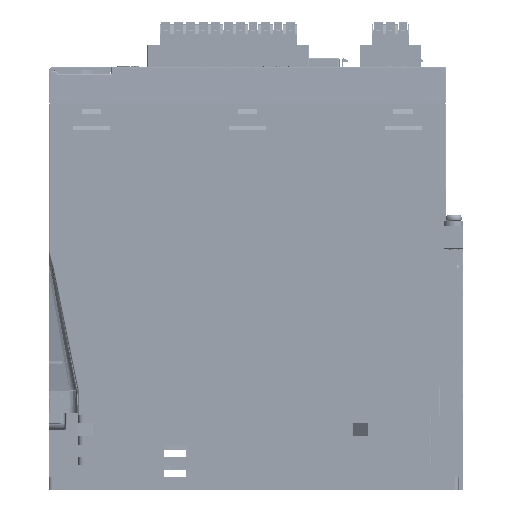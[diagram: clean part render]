
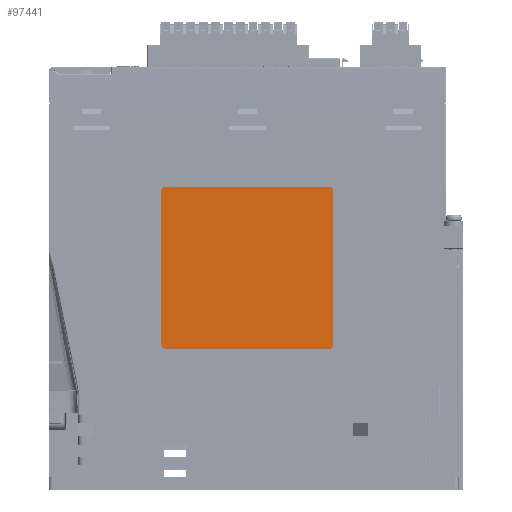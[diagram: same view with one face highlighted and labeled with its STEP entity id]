
A CAD part, left-side view. The second image highlights one B-rep face of the part: STEP entity #97441.
In plain terms, the highlighted planar face has unit normal (-1, 0, 0) as drawn and (0, 1, 0) by its records, which use the part's own axes.
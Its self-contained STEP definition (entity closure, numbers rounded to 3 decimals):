
#97126 = VERTEX_POINT ( 'NONE', #405755 ) ;
#97180 = VERTEX_POINT ( 'NONE', #405941 ) ;
#97192 = EDGE_CURVE ( 'NONE', #97126, #97180, #406135, .T. ) ;
#97226 = EDGE_CURVE ( 'NONE', #97334, #97469, #405987, .T. ) ;
#97230 = EDGE_CURVE ( 'NONE', #97405, #97392, #406186, .T. ) ;
#97293 = EDGE_CURVE ( 'NONE', #97392, #97334, #406505, .T. ) ;
#97306 = VERTEX_POINT ( 'NONE', #406507 ) ;
#97317 = VERTEX_POINT ( 'NONE', #406494 ) ;
#97325 = EDGE_CURVE ( 'NONE', #97306, #97317, #406492, .T. ) ;
#97334 = VERTEX_POINT ( 'NONE', #406550 ) ;
#97350 = ORIENTED_EDGE ( 'NONE', *, *, #97450, .T. ) ;
#97369 = ORIENTED_EDGE ( 'NONE', *, *, #97625, .T. ) ;
#97392 = VERTEX_POINT ( 'NONE', #405407 ) ;
#97405 = VERTEX_POINT ( 'NONE', #407120 ) ;
#97408 = EDGE_LOOP ( 'NONE', ( #97448, #97455, #97426, #97614, #97458, #97350, #97617, #97369 ) ) ;
#97419 = EDGE_CURVE ( 'NONE', #97469, #97306, #407075, .T. ) ;
#97426 = ORIENTED_EDGE ( 'NONE', *, *, #97226, .T. ) ;
#97441 = ADVANCED_FACE ( 'NONE', ( #407285 ), #407396, .T. ) ;
#97448 = ORIENTED_EDGE ( 'NONE', *, *, #97230, .T. ) ;
#97450 = EDGE_CURVE ( 'NONE', #97317, #97126, #407371, .T. ) ;
#97455 = ORIENTED_EDGE ( 'NONE', *, *, #97293, .T. ) ;
#97458 = ORIENTED_EDGE ( 'NONE', *, *, #97325, .T. ) ;
#97469 = VERTEX_POINT ( 'NONE', #407402 ) ;
#97614 = ORIENTED_EDGE ( 'NONE', *, *, #97419, .T. ) ;
#97617 = ORIENTED_EDGE ( 'NONE', *, *, #97192, .T. ) ;
#97625 = EDGE_CURVE ( 'NONE', #97180, #97405, #408210, .T. ) ;
#405407 = CARTESIAN_POINT ( 'NONE',  ( -30., 34.3, -36.4 ) ) ;
#405755 = CARTESIAN_POINT ( 'NONE',  ( 38.5, 34.3, 28.1 ) ) ;
#405941 = CARTESIAN_POINT ( 'NONE',  ( 38.5, 34.3, -34.9 ) ) ;
#405987 = LINE ( 'NONE', #406198, #406192 ) ;
#406129 = DIRECTION ( 'NONE',  ( 0., 0., -1. ) ) ;
#406132 = VECTOR ( 'NONE', #406129, 1000. ) ;
#406133 = CARTESIAN_POINT ( 'NONE',  ( 38.5, 34.3, -36.4 ) ) ;
#406135 = LINE ( 'NONE', #406133, #406132 ) ;
#406179 = DIRECTION ( 'NONE',  ( -1., 0., 0. ) ) ;
#406182 = VECTOR ( 'NONE', #406179, 1000. ) ;
#406185 = CARTESIAN_POINT ( 'NONE',  ( -31.5, 34.3, -36.4 ) ) ;
#406186 = LINE ( 'NONE', #406185, #406182 ) ;
#406189 = DIRECTION ( 'NONE',  ( 0., 0., 1. ) ) ;
#406192 = VECTOR ( 'NONE', #406189, 1000. ) ;
#406198 = CARTESIAN_POINT ( 'NONE',  ( -31.5, 34.3, -36.4 ) ) ;
#406489 = DIRECTION ( 'NONE',  ( 0., 0., 1. ) ) ;
#406490 = DIRECTION ( 'NONE',  ( 0., 1., 0. ) ) ;
#406492 = LINE ( 'NONE', #406547, #406791 ) ;
#406494 = CARTESIAN_POINT ( 'NONE',  ( 37., 34.3, 29.6 ) ) ;
#406505 = CIRCLE ( 'NONE', #406517, 1.5 ) ;
#406507 = CARTESIAN_POINT ( 'NONE',  ( -30., 34.3, 29.6 ) ) ;
#406517 = AXIS2_PLACEMENT_3D ( 'NONE', #406523, #406490, #406489 ) ;
#406523 = CARTESIAN_POINT ( 'NONE',  ( -30., 34.3, -34.9 ) ) ;
#406547 = CARTESIAN_POINT ( 'NONE',  ( -31.5, 34.3, 29.6 ) ) ;
#406550 = CARTESIAN_POINT ( 'NONE',  ( -31.5, 34.3, -34.9 ) ) ;
#406789 = DIRECTION ( 'NONE',  ( 1., 0., 0. ) ) ;
#406791 = VECTOR ( 'NONE', #406789, 1000. ) ;
#407075 = CIRCLE ( 'NONE', #407081, 1.5 ) ;
#407081 = AXIS2_PLACEMENT_3D ( 'NONE', #407122, #407087, #407310 ) ;
#407087 = DIRECTION ( 'NONE',  ( 0., 1., 0. ) ) ;
#407120 = CARTESIAN_POINT ( 'NONE',  ( 37., 34.3, -36.4 ) ) ;
#407122 = CARTESIAN_POINT ( 'NONE',  ( -30., 34.3, 28.1 ) ) ;
#407285 = FACE_OUTER_BOUND ( 'NONE', #97408, .T. ) ;
#407307 = AXIS2_PLACEMENT_3D ( 'NONE', #407362, #407359, #407358 ) ;
#407310 = DIRECTION ( 'NONE',  ( 0., 0., 1. ) ) ;
#407311 = CARTESIAN_POINT ( 'NONE',  ( 37., 34.3, 28.1 ) ) ;
#407349 = DIRECTION ( 'NONE',  ( 0., 1., 0. ) ) ;
#407351 = AXIS2_PLACEMENT_3D ( 'NONE', #407311, #407349, #407568 ) ;
#407358 = DIRECTION ( 'NONE',  ( 0., 0., 1. ) ) ;
#407359 = DIRECTION ( 'NONE',  ( 0., 1., 0. ) ) ;
#407362 = CARTESIAN_POINT ( 'NONE',  ( 38.5, 34.3, 29.6 ) ) ;
#407371 = CIRCLE ( 'NONE', #407351, 1.5 ) ;
#407396 = PLANE ( 'NONE',  #407307 ) ;
#407402 = CARTESIAN_POINT ( 'NONE',  ( -31.5, 34.3, 28.1 ) ) ;
#407568 = DIRECTION ( 'NONE',  ( 0., 0., 1. ) ) ;
#407979 = CARTESIAN_POINT ( 'NONE',  ( 37., 34.3, -34.9 ) ) ;
#408073 = AXIS2_PLACEMENT_3D ( 'NONE', #407979, #408198, #408255 ) ;
#408198 = DIRECTION ( 'NONE',  ( 0., 1., 0. ) ) ;
#408210 = CIRCLE ( 'NONE', #408073, 1.5 ) ;
#408255 = DIRECTION ( 'NONE',  ( 0., 0., 1. ) ) ;
